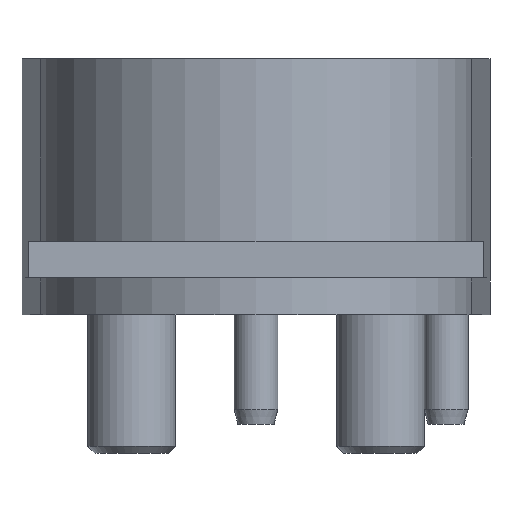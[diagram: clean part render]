
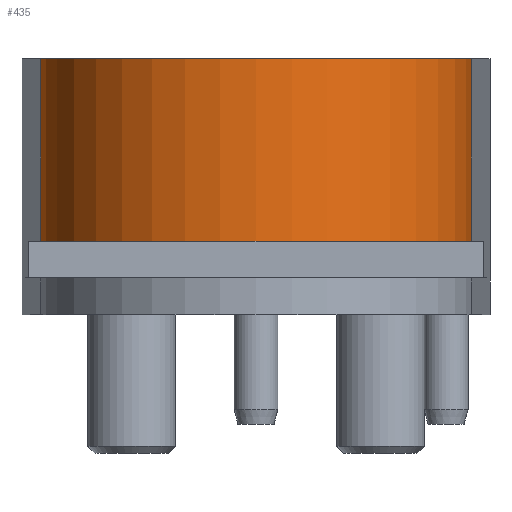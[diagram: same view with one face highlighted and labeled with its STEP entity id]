
A CAD part, left-side view. The second image highlights one B-rep face of the part: STEP entity #435.
In plain terms, the highlighted cylindrical face has radius 29.5 mm (diameter 59 mm), a partial arc.
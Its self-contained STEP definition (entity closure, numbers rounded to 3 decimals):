
#122=CYLINDRICAL_SURFACE('',#2674,29.5);
#273=CIRCLE('',#2672,29.5);
#274=CIRCLE('',#2673,29.5);
#435=ADVANCED_FACE('',(#655),#122,.T.);
#655=FACE_OUTER_BOUND('',#795,.T.);
#795=EDGE_LOOP('',(#1093,#1094,#1095,#1096));
#1093=ORIENTED_EDGE('',*,*,#1950,.F.);
#1094=ORIENTED_EDGE('',*,*,#1951,.T.);
#1095=ORIENTED_EDGE('',*,*,#1952,.F.);
#1096=ORIENTED_EDGE('',*,*,#1953,.F.);
#1697=VERTEX_POINT('',#3889);
#1698=VERTEX_POINT('',#3890);
#1699=VERTEX_POINT('',#3892);
#1700=VERTEX_POINT('',#3894);
#1950=EDGE_CURVE('',#1697,#1698,#273,.T.);
#1951=EDGE_CURVE('',#1697,#1699,#2280,.T.);
#1952=EDGE_CURVE('',#1700,#1699,#274,.T.);
#1953=EDGE_CURVE('',#1698,#1700,#2281,.T.);
#2280=LINE('',#3891,#2478);
#2281=LINE('',#3895,#2479);
#2478=VECTOR('',#3092,1.);
#2479=VECTOR('',#3095,1.);
#2672=AXIS2_PLACEMENT_3D('',#3888,#3090,#3091);
#2673=AXIS2_PLACEMENT_3D('',#3893,#3093,#3094);
#2674=AXIS2_PLACEMENT_3D('',#3896,#3096,#3097);
#3090=DIRECTION('',(0.,0.,-1.));
#3091=DIRECTION('',(0.,1.,0.));
#3092=DIRECTION('',(0.,0.,1.));
#3093=DIRECTION('',(0.,0.,1.));
#3094=DIRECTION('',(0.,1.,0.));
#3095=DIRECTION('',(0.,0.,1.));
#3096=DIRECTION('',(0.,0.,1.));
#3097=DIRECTION('',(-1.,0.,0.));
#3888=CARTESIAN_POINT('',(0.,0.,10.));
#3889=CARTESIAN_POINT('',(-1.989,-29.433,10.));
#3890=CARTESIAN_POINT('',(-1.989,29.433,10.));
#3891=CARTESIAN_POINT('',(-1.989,-29.433,5.));
#3892=CARTESIAN_POINT('',(-1.989,-29.433,35.));
#3893=CARTESIAN_POINT('',(0.,0.,35.));
#3894=CARTESIAN_POINT('',(-1.989,29.433,35.));
#3895=CARTESIAN_POINT('',(-1.989,29.433,5.));
#3896=CARTESIAN_POINT('',(0.,0.,0.));
